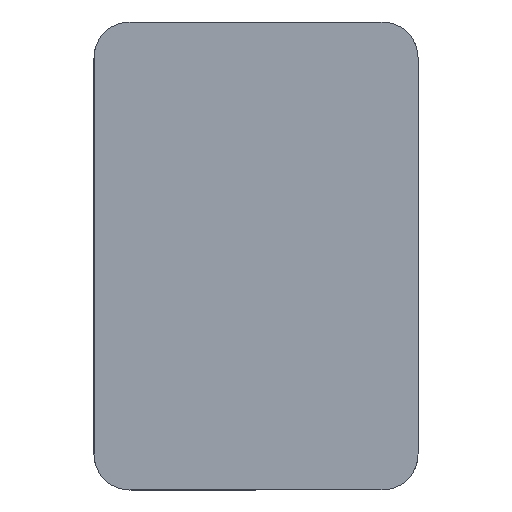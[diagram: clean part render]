
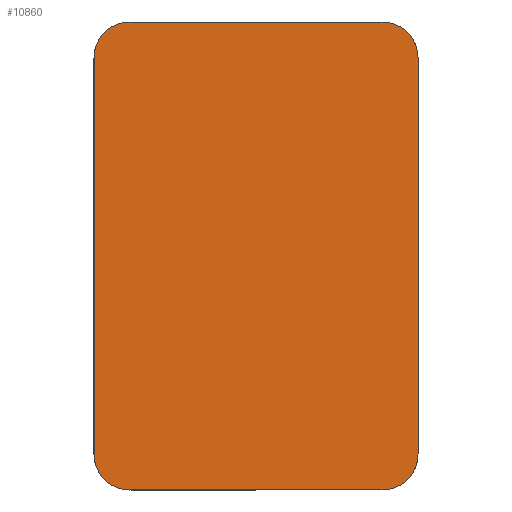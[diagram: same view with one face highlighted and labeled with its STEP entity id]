
A CAD part, left-side view. The second image highlights one B-rep face of the part: STEP entity #10860.
In plain terms, the highlighted planar face has unit normal (-1, 0, 0).
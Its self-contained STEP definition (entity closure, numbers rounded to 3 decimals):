
#1842=LINE('',#21225,#2674);
#1890=LINE('',#22157,#2722);
#1898=LINE('',#22188,#2730);
#1899=LINE('',#22190,#2731);
#2674=VECTOR('',#12618,10.);
#2722=VECTOR('',#12826,10.);
#2730=VECTOR('',#12868,10.);
#2731=VECTOR('',#12871,10.);
#3418=FACE_OUTER_BOUND('',#4071,.T.);
#4071=EDGE_LOOP('',(#10049,#10050,#10051,#10052,#10053,#10054,#10055,#10056));
#4162=CIRCLE('',#11247,5.);
#4168=CIRCLE('',#11255,5.);
#4169=CIRCLE('',#11257,5.);
#4170=CIRCLE('',#11260,5.);
#5150=VERTEX_POINT('',#21222);
#5151=VERTEX_POINT('',#21224);
#5221=VERTEX_POINT('',#22121);
#5229=VERTEX_POINT('',#22141);
#5230=VERTEX_POINT('',#22143);
#5231=VERTEX_POINT('',#22149);
#5232=VERTEX_POINT('',#22151);
#5233=VERTEX_POINT('',#22159);
#6702=EDGE_CURVE('',#5150,#5151,#1842,.T.);
#6809=EDGE_CURVE('',#5151,#5221,#4162,.T.);
#6820=EDGE_CURVE('',#5229,#5230,#4168,.T.);
#6825=EDGE_CURVE('',#5231,#5232,#4169,.T.);
#6829=EDGE_CURVE('',#5230,#5231,#1890,.T.);
#6831=EDGE_CURVE('',#5233,#5150,#4170,.T.);
#6843=EDGE_CURVE('',#5232,#5233,#1898,.T.);
#6844=EDGE_CURVE('',#5221,#5229,#1899,.T.);
#10049=ORIENTED_EDGE('',*,*,#6809,.F.);
#10050=ORIENTED_EDGE('',*,*,#6702,.F.);
#10051=ORIENTED_EDGE('',*,*,#6831,.F.);
#10052=ORIENTED_EDGE('',*,*,#6843,.F.);
#10053=ORIENTED_EDGE('',*,*,#6825,.F.);
#10054=ORIENTED_EDGE('',*,*,#6829,.F.);
#10055=ORIENTED_EDGE('',*,*,#6820,.F.);
#10056=ORIENTED_EDGE('',*,*,#6844,.F.);
#10266=PLANE('',#11277);
#10860=ADVANCED_FACE('',(#3418),#10266,.F.);
#11247=AXIS2_PLACEMENT_3D('',#22122,#12790,#12791);
#11255=AXIS2_PLACEMENT_3D('',#22144,#12811,#12812);
#11257=AXIS2_PLACEMENT_3D('',#22152,#12819,#12820);
#11260=AXIS2_PLACEMENT_3D('',#22161,#12830,#12831);
#11277=AXIS2_PLACEMENT_3D('',#22191,#12872,#12873);
#12618=DIRECTION('',(0.,0.,-1.));
#12790=DIRECTION('center_axis',(1.,0.,0.));
#12791=DIRECTION('ref_axis',(0.,-0.707,-0.707));
#12811=DIRECTION('center_axis',(1.,0.,0.));
#12812=DIRECTION('ref_axis',(0.,0.707,-0.707));
#12819=DIRECTION('center_axis',(1.,0.,0.));
#12820=DIRECTION('ref_axis',(0.,0.707,0.707));
#12826=DIRECTION('',(0.,0.,1.));
#12830=DIRECTION('center_axis',(1.,0.,0.));
#12831=DIRECTION('ref_axis',(0.,-0.707,0.707));
#12868=DIRECTION('',(0.,-1.,0.));
#12871=DIRECTION('',(0.,1.,0.));
#12872=DIRECTION('center_axis',(1.,0.,0.));
#12873=DIRECTION('ref_axis',(0.,1.,0.));
#21222=CARTESIAN_POINT('',(0.,0.,60.));
#21224=CARTESIAN_POINT('',(0.,0.,5.));
#21225=CARTESIAN_POINT('',(0.,0.,65.));
#22121=CARTESIAN_POINT('',(0.,5.,0.));
#22122=CARTESIAN_POINT('Origin',(0.,5.,5.));
#22141=CARTESIAN_POINT('',(0.,40.,0.));
#22143=CARTESIAN_POINT('',(0.,45.,5.));
#22144=CARTESIAN_POINT('Origin',(0.,40.,5.));
#22149=CARTESIAN_POINT('',(0.,45.,60.));
#22151=CARTESIAN_POINT('',(0.,40.,65.));
#22152=CARTESIAN_POINT('Origin',(0.,40.,60.));
#22157=CARTESIAN_POINT('',(0.,45.,0.));
#22159=CARTESIAN_POINT('',(0.,5.,65.));
#22161=CARTESIAN_POINT('Origin',(0.,5.,60.));
#22188=CARTESIAN_POINT('',(0.,45.,65.));
#22190=CARTESIAN_POINT('',(0.,0.,0.));
#22191=CARTESIAN_POINT('Origin',(0.,22.5,32.5));
